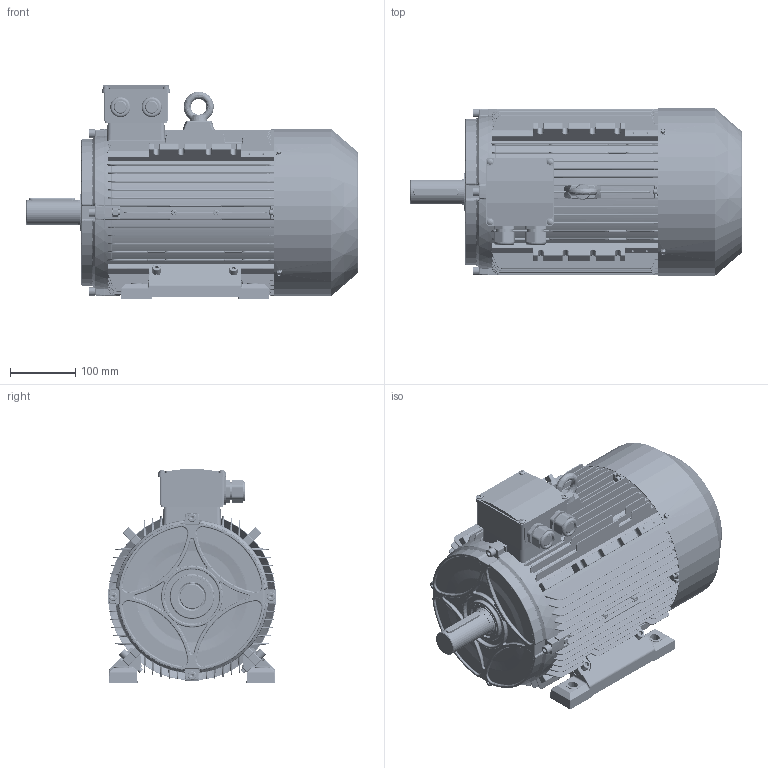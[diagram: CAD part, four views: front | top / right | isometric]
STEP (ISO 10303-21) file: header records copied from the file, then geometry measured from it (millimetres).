
FILE_DESCRIPTION (( 'STEP AP203' ), '1' );
FILE_NAME ('IE3 132M B3.STEP', '2018-07-17T07:01:43', ( 'admin' ), ( '' ), 'SwSTEP 2.0', 'SolidWorks 2014', '' );
FILE_SCHEMA (( 'CONFIG_CONTROL_DESIGN' ));
Length unit declared in the file: millimetre
Products named in the file (21): hexagon flange head tapping screws gb_GB_SQUARE_AND_HEXAGON_TYPE137 ST4.8X9.5 C-N; DMX-IE3 132 terimianl cover; DMX-IE3 132 B3 Shield ; DMX-IE3 132 shaft cover; DMX-IE3 132shaft; DMX-IE3 132 oil seal; deep groove ball bearings gb_Rolling bearings 6308 GB 276-94; plain parallel keys_GB_CONNECTING_PIECE_KEYS_CSK 10X70; DMX-IE3 132 feet ; eyebolts gb_GB_FASTENER_SCREWS_FRS M10-N; hexagon socket head cap screws gb_GB_FASTENER_SCREWS_HSHCS M8X35-N; DMX-IE3 132 feet2 ; spring lock washers--normal type gb_GB_FASTENER_WASHER_SW 8; cross recessed pan head screws gb_GB_CROSS_SCREWS_TYPE1 M5X12-12  H type-N; DMX-IE3 132 fan; hexagon socket head cap screws gb_GB_FASTENER_SCREWS_HSHCS M8X40-N; IE3 132M B3; DMX-IE3 132 fan cover; hexagon nuts grade c gb_GB_FASTENER_NUT_SNC1 M8-N; DMX-IE3 132 terminal base; DMX-IE3 132 casing 
Assembly tree (61 placements, depth 2):
  IE3 132M B3
    DMX-IE3 132 casing 
    DMX-IE3 132 B3 Shield   x2
    DMX-IE3 132shaft
    deep groove ball bearings gb_Rolling bearings 6308 GB 276-94  x2
    DMX-IE3 132 feet 
    DMX-IE3 132 feet2 
    DMX-IE3 132 fan
    DMX-IE3 132 fan cover
    DMX-IE3 132 terminal base
    DMX-IE3 132 terimianl cover
    DMX-IE3 132 shaft cover  x2
    DMX-IE3 132 oil seal
    plain parallel keys_GB_CONNECTING_PIECE_KEYS_CSK 10X70
    eyebolts gb_GB_FASTENER_SCREWS_FRS M10-N
    spring lock washers--normal type gb_GB_FASTENER_WASHER_SW 8  x12
    hexagon socket head cap screws gb_GB_FASTENER_SCREWS_HSHCS M8X40-N  x8
    hexagon nuts grade c gb_GB_FASTENER_NUT_SNC1 M8-N  x12
    hexagon flange head tapping screws gb_GB_SQUARE_AND_HEXAGON_TYPE137 ST4.8X9.5 C-N  x4
    hexagon socket head cap screws gb_GB_FASTENER_SCREWS_HSHCS M8X35-N  x4
    cross recessed pan head screws gb_GB_CROSS_SCREWS_TYPE1 M5X12-12  H type-N  x4
Bounding box: 508.57 x 256.22 x 327 mm (x, y, z)
Volume: 4071535.7 mm3; surface area: 1909329.5 mm2
Topology: 62 solids, 64 shells, 8462 faces, 21785 edges, 13266 vertices
Faces by surface type: plane 2719, bspline 2521, cylinder 2273, cone 584, torus 277, sphere 88
Entity records: 274467 total; most frequent: CARTESIAN_POINT 122270, ORIENTED_EDGE 34652, DIRECTION 25908, EDGE_CURVE 17326, VERTEX_POINT 10645, AXIS2_PLACEMENT_3D 9117, LINE 7674, VECTOR 7674
